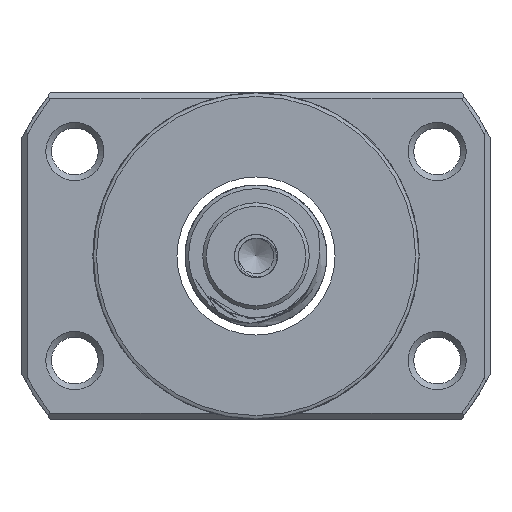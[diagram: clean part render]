
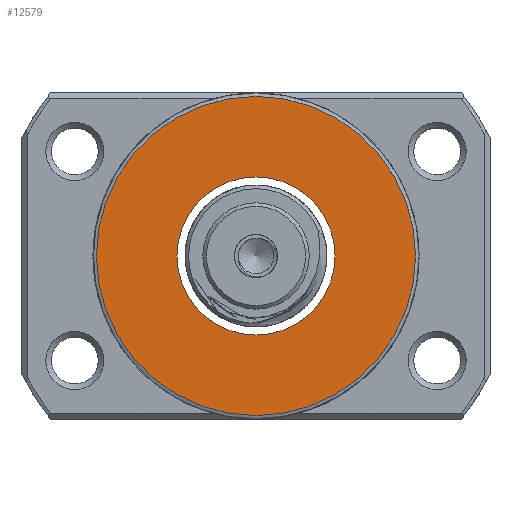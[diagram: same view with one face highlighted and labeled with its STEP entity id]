
A CAD part, left-side view. The second image highlights one B-rep face of the part: STEP entity #12579.
In plain terms, the highlighted planar face has unit normal (-1, 0, 0).
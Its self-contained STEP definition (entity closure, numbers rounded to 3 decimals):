
#2205 = AXIS2_PLACEMENT_3D ( 'NONE', #15679, #9769, #9507 ) ;
#3190 = CARTESIAN_POINT ( 'NONE',  ( -53.324, 0., 11.15 ) ) ;
#5620 = FACE_OUTER_BOUND ( 'NONE', #14801, .T. ) ;
#6666 = EDGE_CURVE ( 'NONE', #18062, #18062, #23585, .T. ) ;
#7637 = DIRECTION ( 'NONE',  ( 0., 0., 1. ) ) ;
#7770 = AXIS2_PLACEMENT_3D ( 'NONE', #15953, #21725, #7637 ) ;
#9044 = CIRCLE ( 'NONE', #2205, 11.15 ) ;
#9366 = ORIENTED_EDGE ( 'NONE', *, *, #12476, .F. ) ;
#9507 = DIRECTION ( 'NONE',  ( 0., 0., 1. ) ) ;
#9741 = VERTEX_POINT ( 'NONE', #3190 ) ;
#9769 = DIRECTION ( 'NONE',  ( -1., 0., 0. ) ) ;
#12476 = EDGE_CURVE ( 'NONE', #9741, #9741, #9044, .T. ) ;
#12579 = ADVANCED_FACE ( 'NONE', ( #5620, #21984 ), #21849, .T. ) ;
#13300 = ORIENTED_EDGE ( 'NONE', *, *, #6666, .T. ) ;
#13781 = CARTESIAN_POINT ( 'NONE',  ( -53.324, 0., 22.5 ) ) ;
#14801 = EDGE_LOOP ( 'NONE', ( #13300 ) ) ;
#14930 = EDGE_LOOP ( 'NONE', ( #9366 ) ) ;
#15679 = CARTESIAN_POINT ( 'NONE',  ( -53.324, 0., 0. ) ) ;
#15953 = CARTESIAN_POINT ( 'NONE',  ( -53.324, 11.15, 0. ) ) ;
#18062 = VERTEX_POINT ( 'NONE', #13781 ) ;
#20448 = DIRECTION ( 'NONE',  ( 0., 0., 1. ) ) ;
#20715 = DIRECTION ( 'NONE',  ( -1., 0., 0. ) ) ;
#21725 = DIRECTION ( 'NONE',  ( -1., 0., 0. ) ) ;
#21849 = PLANE ( 'NONE',  #7770 ) ;
#21984 = FACE_BOUND ( 'NONE', #14930, .T. ) ;
#22741 = AXIS2_PLACEMENT_3D ( 'NONE', #26488, #20715, #20448 ) ;
#23585 = CIRCLE ( 'NONE', #22741, 22.5 ) ;
#26488 = CARTESIAN_POINT ( 'NONE',  ( -53.324, 0., 0. ) ) ;
